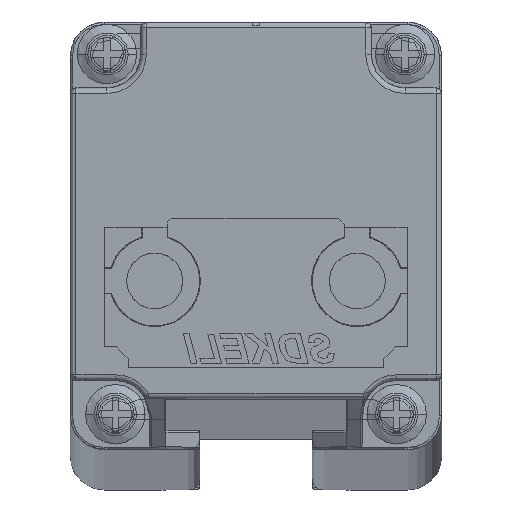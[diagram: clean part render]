
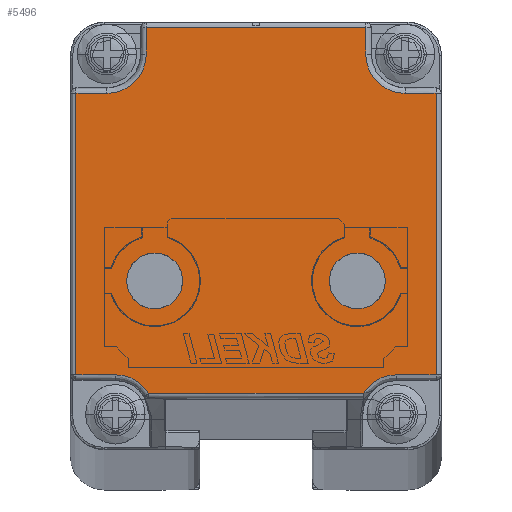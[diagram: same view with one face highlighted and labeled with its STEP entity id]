
A CAD part, top view. The second image highlights one B-rep face of the part: STEP entity #5496.
In plain terms, the highlighted planar face has unit normal (0, 0, 1).
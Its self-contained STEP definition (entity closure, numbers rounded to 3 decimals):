
#2552=CARTESIAN_POINT('',(4.,3.152,130.));
#2553=DIRECTION('',(0.,0.,1.));
#2554=DIRECTION('',(0.849,0.528,0.));
#2555=AXIS2_PLACEMENT_3D('',#2552,#2553,#2554);
#2557=CARTESIAN_POINT('',(3.25,35.15,130.));
#2558=DIRECTION('',(0.,0.,1.));
#2559=DIRECTION('',(0.,-1.,0.));
#2560=AXIS2_PLACEMENT_3D('',#2557,#2558,#2559);
#2562=CARTESIAN_POINT('',(29.75,35.15,130.));
#2563=DIRECTION('',(0.,0.,1.));
#2564=DIRECTION('',(-1.,0.,0.));
#2565=AXIS2_PLACEMENT_3D('',#2562,#2563,#2564);
#2567=CARTESIAN_POINT('',(29.,3.152,130.));
#2568=DIRECTION('',(0.,0.,1.));
#2569=DIRECTION('',(0.,1.,0.));
#2570=AXIS2_PLACEMENT_3D('',#2567,#2568,#2569);
#2572=CARTESIAN_POINT('',(7.5,15.002,130.));
#2573=DIRECTION('',(0.,0.,1.));
#2574=DIRECTION('',(1.,0.007,0.));
#2575=AXIS2_PLACEMENT_3D('',#2572,#2573,#2574);
#2577=CARTESIAN_POINT('',(7.5,15.002,130.));
#2578=DIRECTION('',(0.,0.,1.));
#2579=DIRECTION('',(-1.,-0.007,0.));
#2580=AXIS2_PLACEMENT_3D('',#2577,#2578,#2579);
#2582=CARTESIAN_POINT('',(25.5,15.,130.));
#2583=DIRECTION('',(0.,0.,1.));
#2584=DIRECTION('',(1.,-0.007,0.));
#2585=AXIS2_PLACEMENT_3D('',#2582,#2583,#2584);
#2587=CARTESIAN_POINT('',(25.5,15.,130.));
#2588=DIRECTION('',(0.,0.,1.));
#2589=DIRECTION('',(-1.,0.007,0.));
#2590=AXIS2_PLACEMENT_3D('',#2587,#2588,#2589);
#2632=DIRECTION('',(1.,0.,0.));
#2633=VECTOR('',#2632,19.056);
#2634=CARTESIAN_POINT('',(6.972,5.,130.));
#2635=LINE('',#2634,#2633);
#2957=DIRECTION('',(0.,1.,0.));
#2958=VECTOR('',#2957,2.35);
#2959=CARTESIAN_POINT('',(26.25,35.15,130.));
#2960=LINE('',#2959,#2958);
#2980=DIRECTION('',(-1.,0.,0.));
#2981=VECTOR('',#2980,19.5);
#2982=CARTESIAN_POINT('',(26.25,37.5,130.));
#2983=LINE('',#2982,#2981);
#3004=DIRECTION('',(0.,-1.,0.));
#3005=VECTOR('',#3004,2.35);
#3006=CARTESIAN_POINT('',(6.75,37.5,130.));
#3007=LINE('',#3006,#3005);
#3031=DIRECTION('',(-1.,0.,0.));
#3032=VECTOR('',#3031,2.75);
#3033=CARTESIAN_POINT('',(3.25,31.65,130.));
#3034=LINE('',#3033,#3032);
#3185=DIRECTION('',(0.,-1.,0.));
#3186=VECTOR('',#3185,24.998);
#3187=CARTESIAN_POINT('',(0.5,31.65,130.));
#3188=LINE('',#3187,#3186);
#3224=DIRECTION('',(1.,0.,0.));
#3225=VECTOR('',#3224,3.5);
#3226=CARTESIAN_POINT('',(0.5,6.652,130.));
#3227=LINE('',#3226,#3225);
#3590=DIRECTION('',(-1.,0.,0.));
#3591=VECTOR('',#3590,2.75);
#3592=CARTESIAN_POINT('',(32.5,31.65,130.));
#3593=LINE('',#3592,#3591);
#3740=DIRECTION('',(1.,0.,0.));
#3741=VECTOR('',#3740,3.5);
#3742=CARTESIAN_POINT('',(29.,6.652,130.));
#3743=LINE('',#3742,#3741);
#3775=DIRECTION('',(0.,1.,0.));
#3776=VECTOR('',#3775,24.998);
#3777=CARTESIAN_POINT('',(32.5,6.652,130.));
#3778=LINE('',#3777,#3776);
#4820=CARTESIAN_POINT('',(10.,15.018,130.));
#4821=VERTEX_POINT('',#4820);
#4822=CARTESIAN_POINT('',(5.,14.986,130.));
#4823=VERTEX_POINT('',#4822);
#4824=CARTESIAN_POINT('',(6.972,5.,130.));
#4825=CARTESIAN_POINT('',(4.,6.652,130.));
#4826=VERTEX_POINT('',#4824);
#4827=VERTEX_POINT('',#4825);
#4828=CARTESIAN_POINT('',(0.5,6.652,130.));
#4829=VERTEX_POINT('',#4828);
#4830=CARTESIAN_POINT('',(0.5,31.65,130.));
#4831=VERTEX_POINT('',#4830);
#4832=CARTESIAN_POINT('',(3.25,31.65,130.));
#4833=VERTEX_POINT('',#4832);
#4834=CARTESIAN_POINT('',(6.75,35.15,130.));
#4835=VERTEX_POINT('',#4834);
#4836=CARTESIAN_POINT('',(6.75,37.5,130.));
#4837=VERTEX_POINT('',#4836);
#4838=CARTESIAN_POINT('',(26.25,37.5,130.));
#4839=VERTEX_POINT('',#4838);
#4840=CARTESIAN_POINT('',(26.25,35.15,130.));
#4841=VERTEX_POINT('',#4840);
#4842=CARTESIAN_POINT('',(29.75,31.65,130.));
#4843=VERTEX_POINT('',#4842);
#4844=CARTESIAN_POINT('',(32.5,31.65,130.));
#4845=VERTEX_POINT('',#4844);
#4846=CARTESIAN_POINT('',(32.5,6.652,130.));
#4847=VERTEX_POINT('',#4846);
#4848=CARTESIAN_POINT('',(29.,6.652,130.));
#4849=VERTEX_POINT('',#4848);
#4850=CARTESIAN_POINT('',(26.028,5.,130.));
#4851=VERTEX_POINT('',#4850);
#4852=CARTESIAN_POINT('',(28.,14.984,130.));
#4853=CARTESIAN_POINT('',(23.,15.017,130.));
#4854=VERTEX_POINT('',#4852);
#4855=VERTEX_POINT('',#4853);
#5451=CARTESIAN_POINT('',(16.5,24.,130.));
#5452=DIRECTION('',(0.,0.,1.));
#5453=DIRECTION('',(1.,0.,0.));
#5454=AXIS2_PLACEMENT_3D('',#5451,#5452,#5453);
#5455=PLANE('',#5454);
#5457=ORIENTED_EDGE('',*,*,#5456,.T.);
#5459=ORIENTED_EDGE('',*,*,#5458,.F.);
#5461=ORIENTED_EDGE('',*,*,#5460,.F.);
#5463=ORIENTED_EDGE('',*,*,#5462,.F.);
#5465=ORIENTED_EDGE('',*,*,#5464,.T.);
#5467=ORIENTED_EDGE('',*,*,#5466,.F.);
#5469=ORIENTED_EDGE('',*,*,#5468,.F.);
#5471=ORIENTED_EDGE('',*,*,#5470,.F.);
#5473=ORIENTED_EDGE('',*,*,#5472,.T.);
#5475=ORIENTED_EDGE('',*,*,#5474,.F.);
#5477=ORIENTED_EDGE('',*,*,#5476,.F.);
#5479=ORIENTED_EDGE('',*,*,#5478,.F.);
#5481=ORIENTED_EDGE('',*,*,#5480,.T.);
#5483=ORIENTED_EDGE('',*,*,#5482,.F.);
#5484=EDGE_LOOP('',(#5457,#5459,#5461,#5463,#5465,#5467,#5469,#5471,#5473,#5475,
#5477,#5479,#5481,#5483));
#5485=FACE_OUTER_BOUND('',#5484,.F.);
#5486=ORIENTED_EDGE('',*,*,#5438,.T.);
#5487=ORIENTED_EDGE('',*,*,#5399,.T.);
#5488=EDGE_LOOP('',(#5486,#5487));
#5489=FACE_BOUND('',#5488,.F.);
#5491=ORIENTED_EDGE('',*,*,#5490,.T.);
#5493=ORIENTED_EDGE('',*,*,#5492,.T.);
#5494=EDGE_LOOP('',(#5491,#5493));
#5495=FACE_BOUND('',#5494,.F.);
#2556=CIRCLE('',#2555,3.5);
#2561=CIRCLE('',#2560,3.5);
#2566=CIRCLE('',#2565,3.5);
#2571=CIRCLE('',#2570,3.5);
#2576=CIRCLE('',#2575,2.5);
#2581=CIRCLE('',#2580,2.5);
#2586=CIRCLE('',#2585,2.5);
#2591=CIRCLE('',#2590,2.5);
#5399=EDGE_CURVE('',#4823,#4821,#2581,.T.);
#5438=EDGE_CURVE('',#4821,#4823,#2576,.T.);
#5456=EDGE_CURVE('',#4826,#4827,#2556,.T.);
#5458=EDGE_CURVE('',#4829,#4827,#3227,.T.);
#5460=EDGE_CURVE('',#4831,#4829,#3188,.T.);
#5462=EDGE_CURVE('',#4833,#4831,#3034,.T.);
#5464=EDGE_CURVE('',#4833,#4835,#2561,.T.);
#5466=EDGE_CURVE('',#4837,#4835,#3007,.T.);
#5468=EDGE_CURVE('',#4839,#4837,#2983,.T.);
#5470=EDGE_CURVE('',#4841,#4839,#2960,.T.);
#5472=EDGE_CURVE('',#4841,#4843,#2566,.T.);
#5474=EDGE_CURVE('',#4845,#4843,#3593,.T.);
#5476=EDGE_CURVE('',#4847,#4845,#3778,.T.);
#5478=EDGE_CURVE('',#4849,#4847,#3743,.T.);
#5480=EDGE_CURVE('',#4849,#4851,#2571,.T.);
#5482=EDGE_CURVE('',#4826,#4851,#2635,.T.);
#5490=EDGE_CURVE('',#4854,#4855,#2586,.T.);
#5492=EDGE_CURVE('',#4855,#4854,#2591,.T.);
#5496=ADVANCED_FACE('',(#5485,#5489,#5495),#5455,.T.);
